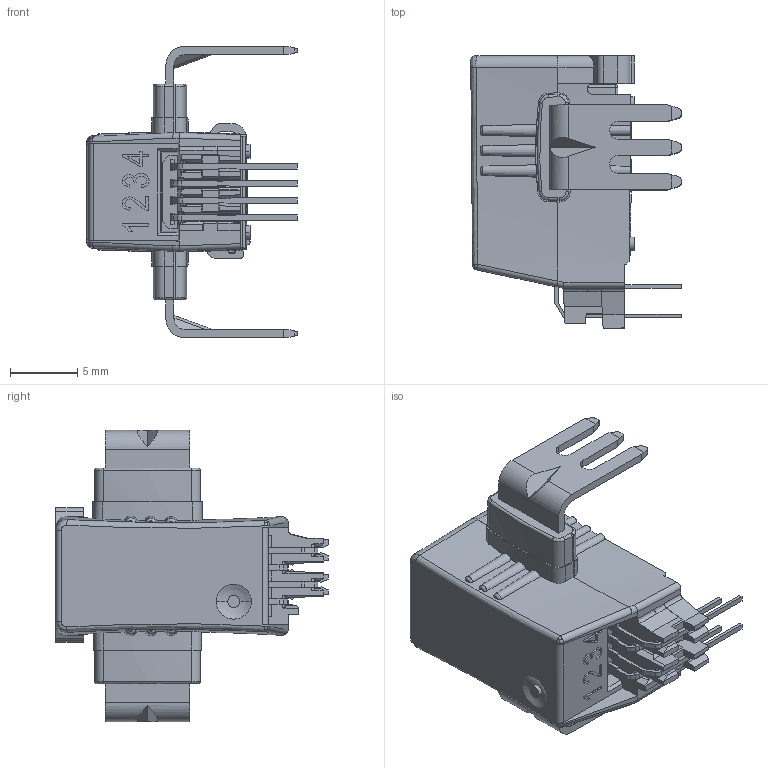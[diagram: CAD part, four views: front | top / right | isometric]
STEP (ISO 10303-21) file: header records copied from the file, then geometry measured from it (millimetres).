
FILE_DESCRIPTION(('Creo Elements/Direct Modeling STEP Export'),'2;1');
FILE_NAME('HLSR_P_blackbox_180113.stp','2013-01-18T 9:28:03',(''),(''),'Creo Elements/Direct Modeling STEP processor for AP214 (Solid Model)','Creo Elements/Direct Modeling 17.0E 05-Feb-2012 (C) Parametric Technology GmbH','');
FILE_SCHEMA(('AUTOMOTIVE_DESIGN { 1 0 10303 214 1 1 1 1 }'));
Products named in the file (1): blackbox_180113
Bounding box: 15.62 x 20.23 x 21.6 mm (x, y, z)
Volume: 1451.3 mm3; surface area: 2851.2 mm2
Topology: 1 solids, 3 shells, 1351 faces, 3740 edges, 2438 vertices
Faces by surface type: plane 983, cylinder 278, bspline 38, cone 23, torus 22, sphere 6, extrusion 1
Entity records: 59656 total; most frequent: CARTESIAN_POINT 15094, ORIENTED_EDGE 7470, DIRECTION 6409, EDGE_CURVE 3735, VECTOR 2969, LINE 2968, VERTEX_POINT 2438, AXIS2_PLACEMENT_3D 1720
